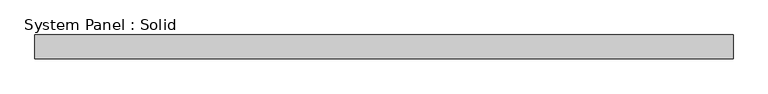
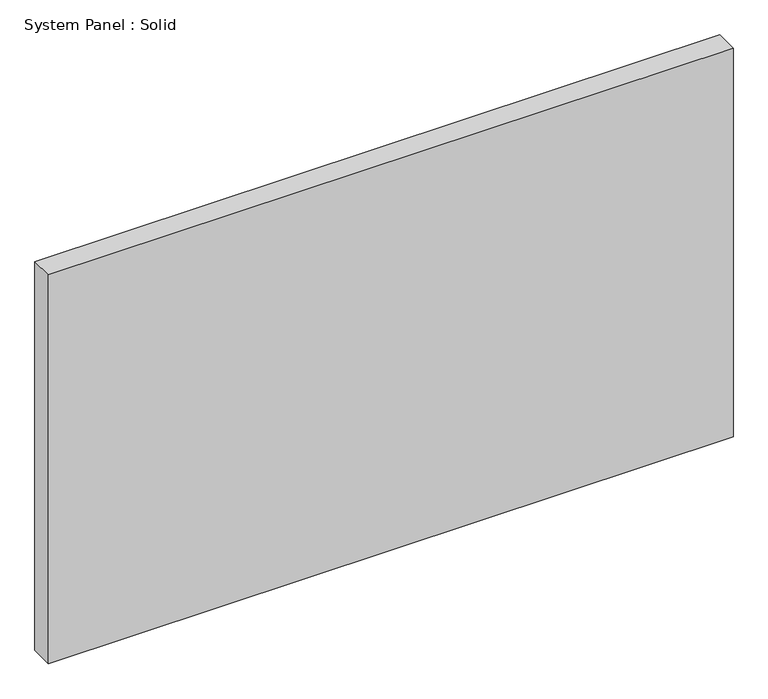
"""IFC4 building model written with IfcOpenShell, lengths in millimetres: plate geometry, System Panel : Solid."""

from ifc_helpers import new_model, si_unit, origin, origin_with_axes, place, context, project, spatial, polyline, outline, extrude, source, transform, mapped, element, save


def system_panel_solid_9c486990(model_context):
    return source(origin(), model_context, "Body", "SweptSolid", [
        extrude(outline(polyline([(936.625, -44.45), (-936.625, -44.45), (-936.625, 19.05), (936.625, 19.05), (936.625, -44.45)])), origin_with_axes(), (0.0, 0.0, 1.0), 1123.95),
    ])


if __name__ == "__main__":
    model = new_model("IFC4")
    model_context = context("Model", 3, world=origin())
    ifc_project = project(units=[si_unit("LENGTHUNIT", "METRE", prefix="MILLI")], contexts=[model_context])
    site = spatial("IfcSite", under=ifc_project)
    building = spatial("IfcBuilding", under=site)
    placement = place(None, origin())
    system_panel_solid_shape = system_panel_solid_9c486990(model_context)
    element("IfcPlate", 1, ObjectType="System Panel : Solid", at=placement, inside=building, context=model_context, shape_type="MappedRepresentation", body=[
        mapped(system_panel_solid_shape, transform((0.0, 0.0, 0.0), x_axis=(1.0, 0.0, 0.0), y_axis=(0.0, 1.0, 0.0), z_axis=(0.0, 0.0, 1.0))),
    ])
    save(model, "model.ifc")
